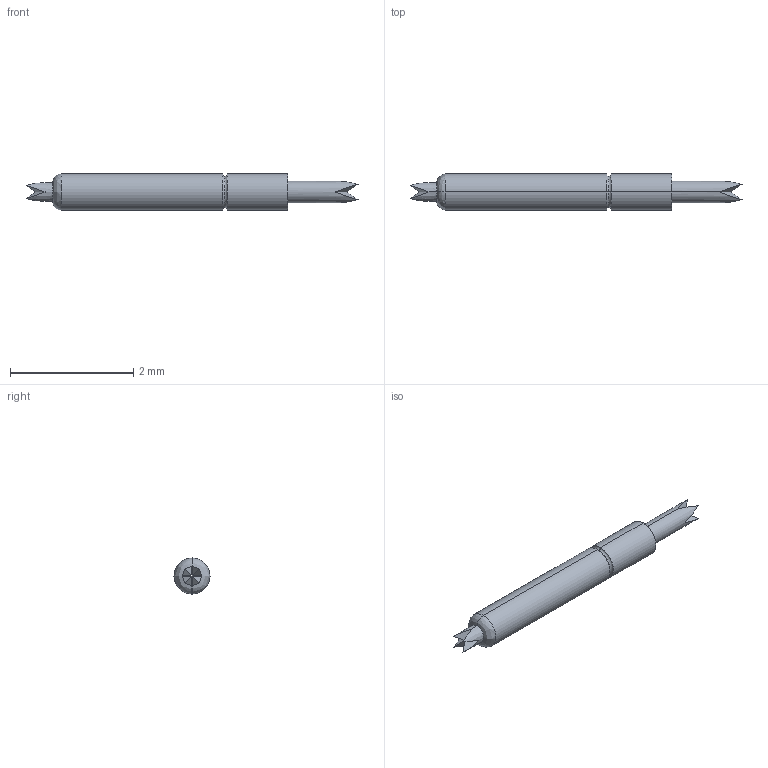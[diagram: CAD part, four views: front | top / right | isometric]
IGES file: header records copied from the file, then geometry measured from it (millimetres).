
Start section: SolidWorks IGES file using analytic representation for surfaces
Global section: file name: Z:\probe solid model mockups\Solidworks models\IGES Files\CSP8-15 IGES files\CSP8-15LL RECD.IGS; native system: SolidWorks 2006 by SolidWorks Corporation; preprocessor: SolidWorks 2006 by SolidWorks Corporation; author: tsakatani; date: 080108.152245; units: inch
Bounding box: 5.38 x 0.58 x 0.58 mm (x, y, z)
Surface area: 9.1 mm2 (no closed solid volume)
Topology: 0 solids, 0 shells, 31 faces, 180 edges, 180 vertices
Faces by surface type: bspline 23, revolution 8
